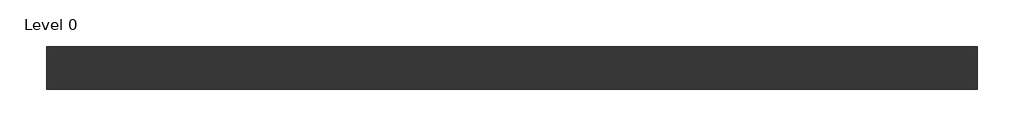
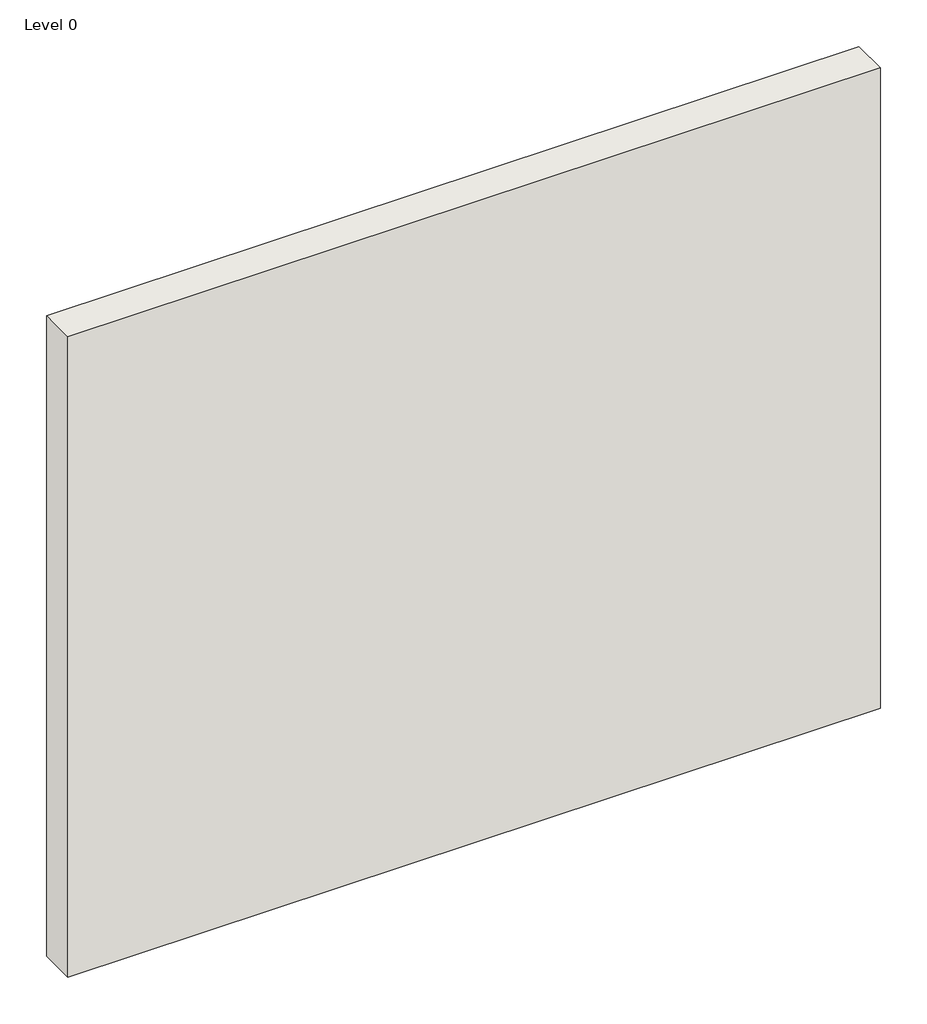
# One storey: 1 wall.
"""IFC4 building model written with IfcOpenShell, lengths in millimetres."""

import ifcopenshell
import ifcopenshell.guid

model = None  # the IFC model being written
_history = None  # IfcOwnerHistory: only IFC2X3 demands one
_inside = {}  # id of a spatial element -> (the spatial element, [elements in it])
_under = {}  # id of a project, library or spatial element -> (it, [spatial elements below it])
_declared = {}  # id of a project -> (the project, [libraries it declares])
_typed = {}  # id of a type object -> (the type object, [elements of that type])
_made_of = {}  # id of a material, layer set ... -> (it, [elements and type objects made of it])


def new_model(schema):
    """Start an empty IFC model of exactly this schema.

    Asked for "IFC4X3", IfcOpenShell would pick the latest addendum, in which some entities
    have other attributes; the version numbers below select the first issue.
    IFC2X3 requires an IfcOwnerHistory on every rooted entity: one is made here for all.
    """
    global model, _history
    if schema == "IFC4X3":
        model = ifcopenshell.file(schema_version=(4, 3, 0, 0))
    else:
        model = ifcopenshell.file(schema=schema)
    _inside.clear()
    _under.clear()
    _declared.clear()
    _typed.clear()
    _made_of.clear()
    _history = None
    if model.schema == "IFC2X3":
        org = make("IfcOrganization", Name="unknown")
        user = make(
            "IfcPersonAndOrganization",
            ThePerson=make("IfcPerson", FamilyName="unknown"),
            TheOrganization=org,
        )
        app = make(
            "IfcApplication",
            ApplicationDeveloper=org,
            Version="unknown",
            ApplicationFullName="unknown",
            ApplicationIdentifier="unknown",
        )
        _history = make(
            "IfcOwnerHistory",
            OwningUser=user,
            OwningApplication=app,
            ChangeAction="ADDED",
            CreationDate=0,
        )
    return model


def make(cls, **values):
    """One entity of the class cls with the attributes given. An attribute that is None is left unset."""
    return model.create_entity(
        cls, **{name: value for name, value in values.items() if value is not None}
    )


def rooted(cls, **values):
    """An entity with a GlobalId (a new one), such as an element, a storey or a relation."""
    return make(cls, GlobalId=ifcopenshell.guid.new(), OwnerHistory=_history, **values)


def si_unit(unit_type, name, prefix=None):
    """IfcSIUnit, for example si_unit("LENGTHUNIT", "METRE", prefix="MILLI")."""
    return make("IfcSIUnit", UnitType=unit_type, Prefix=prefix, Name=name)


def assignment(units):
    """IfcUnitAssignment: the units of a project."""
    return None if units is None else make("IfcUnitAssignment", Units=units)


def point(xyz):
    """IfcCartesianPoint."""
    return None if xyz is None else make("IfcCartesianPoint", Coordinates=xyz)


def direction(xyz):
    """IfcDirection."""
    return None if xyz is None else make("IfcDirection", DirectionRatios=xyz)


def frame(location, z_axis=None, x_axis=None):
    """IfcAxis2Placement3D, a coordinate frame: its origin and axes. An axis left out is left unset."""
    return make(
        "IfcAxis2Placement3D",
        Location=point(location),
        Axis=direction(z_axis),
        RefDirection=direction(x_axis),
    )


def origin():
    """The frame at (0, 0, 0) with its axes left unset."""
    return frame((0.0, 0.0, 0.0))


def origin_with_axes():
    """The frame at (0, 0, 0) with the z axis (0, 0, 1) and the x axis (1, 0, 0) written out."""
    return frame((0.0, 0.0, 0.0), z_axis=(0.0, 0.0, 1.0), x_axis=(1.0, 0.0, 0.0))


def place(relative_to, where):
    """IfcLocalPlacement: puts the frame where relative to a parent placement (None: the world)."""
    return make(
        "IfcLocalPlacement", PlacementRelTo=relative_to, RelativePlacement=where
    )


def context(
    kind, dimensions, precision=None, world=None, true_north=None, identifier=None
):
    """IfcGeometricRepresentationContext, for example the 3D "Model" context."""
    return make(
        "IfcGeometricRepresentationContext",
        ContextIdentifier=identifier,
        ContextType=kind,
        CoordinateSpaceDimension=dimensions,
        Precision=precision,
        WorldCoordinateSystem=world,
        TrueNorth=true_north,
    )


def project(units=None, contexts=None):
    """IfcProject with its units and contexts."""
    return rooted(
        "IfcProject",
        Name="project",
        RepresentationContexts=contexts,
        UnitsInContext=assignment(units),
    )


def spatial(cls, under=None, at=None, **own):
    """A site, building, storey or space (cls), placed at a placement, below another one or the project."""
    s = rooted(cls, ObjectPlacement=at, **own)
    if under is not None:
        _under.setdefault(under.id(), (under, []))[1].append(s)
    return s


def polyline(points):
    """IfcPolyline through the points."""
    return make("IfcPolyline", Points=[point(p) for p in points])


def outline(outer, holes=None, kind="AREA"):
    """IfcArbitraryClosedProfileDef: a profile drawn as a closed curve; with holes, ...WithVoids."""
    if holes is None:
        return make("IfcArbitraryClosedProfileDef", ProfileType=kind, OuterCurve=outer)
    return make(
        "IfcArbitraryProfileDefWithVoids",
        ProfileType=kind,
        OuterCurve=outer,
        InnerCurves=holes,
    )


def extrude(swept, where, along, depth):
    """IfcExtrudedAreaSolid: the profile swept, set in the frame where, extruded along a direction by depth."""
    return make(
        "IfcExtrudedAreaSolid",
        SweptArea=swept,
        Position=where,
        ExtrudedDirection=direction(along),
        Depth=depth,
    )


def shape(context_of_items, identifier, shape_type, items):
    """IfcShapeRepresentation: the items that make up one representation, for example the "Body"."""
    return make(
        "IfcShapeRepresentation",
        ContextOfItems=context_of_items,
        RepresentationIdentifier=identifier,
        RepresentationType=shape_type,
        Items=items,
    )


def made_of(thing, what):
    """Note that an element or type object is made of a material, layer set ...; save() writes the relation."""
    if what is not None:
        _made_of.setdefault(what.id(), (what, []))[1].append(thing)
    return thing


def element(
    cls,
    number,
    at=None,
    inside=None,
    cuts=None,
    type_object=None,
    material=None,
    context=None,
    identifier="Body",
    shape_type=None,
    held_by="IfcProductDefinitionShape",
    body=None,
    shapes=None,
    **own,
):
    """One element of the class cls, such as IfcWall. Its Tag is "e" and its number.

    at: its placement. inside: the storey or other place that contains it. cuts: it is an
    opening in that element (IfcRelVoidsElement). A single representation is given by context,
    identifier, shape_type and body (its items); several are given by shapes. held_by: the class
    of the entity that holds the representations. save() writes the other relations.
    """
    e = rooted(cls, Tag="e%d" % number, ObjectPlacement=at, **own)
    if body is not None:
        shapes = [shape(context, identifier, shape_type, body)]
    if shapes is not None:
        e.Representation = make(held_by, Representations=shapes)
    if inside is not None:
        _inside.setdefault(inside.id(), (inside, []))[1].append(e)
    if cuts is not None:
        rooted(
            "IfcRelVoidsElement", RelatingBuildingElement=cuts, RelatedOpeningElement=e
        )
    if type_object is not None:
        _typed.setdefault(type_object.id(), (type_object, []))[1].append(e)
    return made_of(e, material)


def aggregate(whole, parts):
    """IfcRelAggregates: a whole, such as a stair, and the parts it consists of."""
    return rooted("IfcRelAggregates", RelatingObject=whole, RelatedObjects=parts)


def save(model, path):
    """Write the relations noted so far, then the file.

    IfcRelAggregates (storeys below a building ...), IfcRelContainedInSpatialStructure (elements
    in a storey), IfcRelDefinesByType, IfcRelAssociatesMaterial and IfcRelDeclares: one each for
    every whole, place, type object, material and project.
    """
    for whole, parts in _under.values():
        aggregate(whole, parts)
    for where, things in _inside.values():
        rooted(
            "IfcRelContainedInSpatialStructure",
            RelatedElements=things,
            RelatingStructure=where,
        )
    for kind, things in _typed.values():
        rooted("IfcRelDefinesByType", RelatedObjects=things, RelatingType=kind)
    for what, things in _made_of.values():
        rooted("IfcRelAssociatesMaterial", RelatedObjects=things, RelatingMaterial=what)
    for by, libraries in _declared.values():
        rooted("IfcRelDeclares", RelatingContext=by, RelatedDefinitions=libraries)
    model.write(path)


model = new_model("IFC4")

# Units and contexts
model_context = context("Model", 3, world=origin())
ifc_project = project(units=[si_unit("LENGTHUNIT", "METRE", prefix="MILLI")], contexts=[model_context])

# Site, building, storey
site = spatial("IfcSite", under=ifc_project)
building = spatial("IfcBuilding", under=site)
storey = spatial("IfcBuildingStorey", under=building, Name="Level 0", Elevation=0.0)

# Wall
placement = place(None, origin())
element("IfcWall", 1, ObjectType="A316008 - GypWall QUIET SF", at=placement, inside=storey, context=model_context, shape_type="SweptSolid", body=[
    extrude(outline(polyline([(2116.0807354, 525.2205641), (-883.9192646, 525.2205641), (-883.9192646, 662.2205641), (2116.0807354, 662.2205641), (2116.0807354, 525.2205641)])), origin_with_axes(), (0.0, 0.0, 1.0), 2500.0),
])

save(model, "model.ifc")
